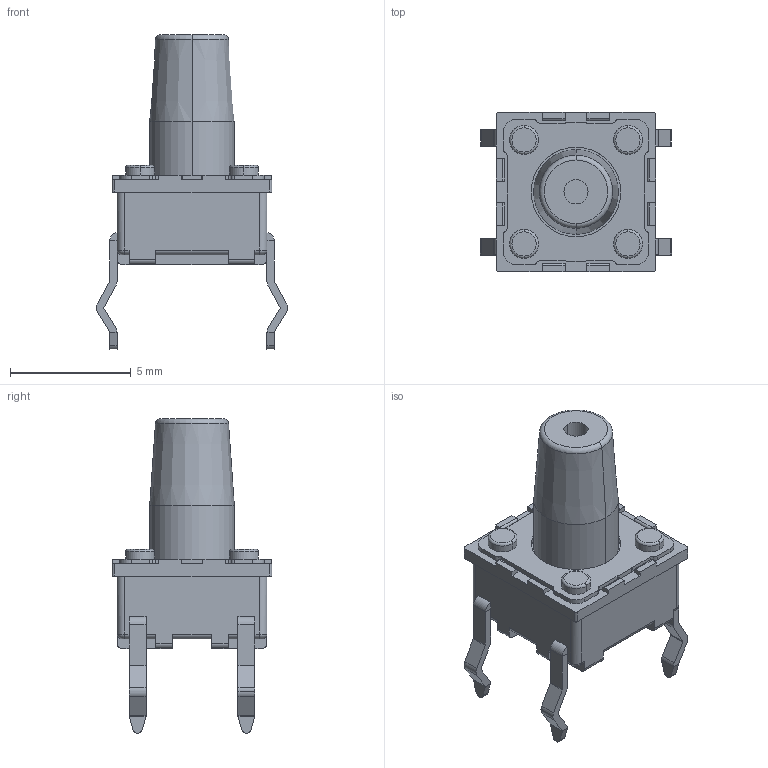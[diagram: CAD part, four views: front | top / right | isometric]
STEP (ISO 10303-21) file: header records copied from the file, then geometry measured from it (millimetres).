
FILE_DESCRIPTION (( 'STEP AP214' ), '1' );
FILE_NAME ('SKQJAJ.STEP', '2009-12-02T07:14:16', ( '' ), ( '' ), 'SwSTEP 2.0', 'SolidWorks 2007', '' );
FILE_SCHEMA (( 'AUTOMOTIVE_DESIGN' ));
Length unit declared in the file: millimetre
Products named in the file (1): SKQJAJ
Bounding box: 7.9 x 6.6 x 13 mm (x, y, z)
Volume: 187.7 mm3; surface area: 326.8 mm2
Topology: 1 solids, 5 shells, 354 faces, 954 edges, 616 vertices
Faces by surface type: plane 184, cylinder 150, torus 18, cone 2
Entity records: 15074 total; most frequent: DIRECTION 1998, CARTESIAN_POINT 1961, ORIENTED_EDGE 1908, EDGE_CURVE 954, AXIS2_PLACEMENT_3D 693, VERTEX_POINT 616, VECTOR 612, LINE 612
